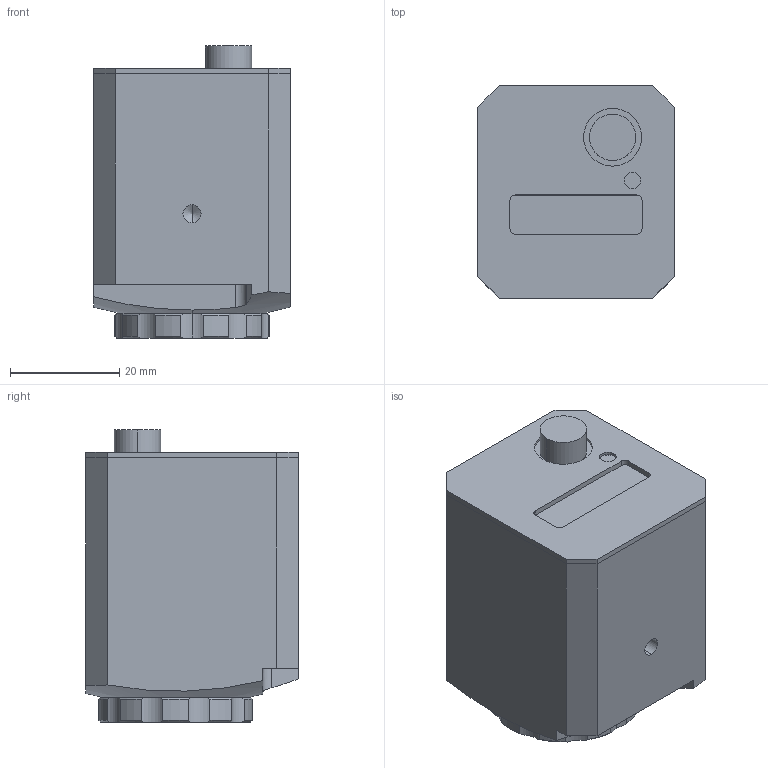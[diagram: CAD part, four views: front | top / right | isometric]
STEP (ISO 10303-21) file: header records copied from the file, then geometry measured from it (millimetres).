
FILE_DESCRIPTION (( 'STEP AP214' ), '1' );
FILE_NAME ('BeamPro C1.STEP', '2022-05-13T12:18:41', ( '' ), ( '' ), 'SwSTEP 2.0', 'SolidWorks 2020', '' );
FILE_SCHEMA (( 'AUTOMOTIVE_DESIGN' ));
Length unit declared in the file: millimetre
Products named in the file (5): Optique g幯廨ique_D20x2; BPRO-OPT-02_Documentation produit; BPRO-BOX-02_Documentation produit; BeamPro C1; BPRO-BOX-01_BPRO-BOX-01-C1 - documentation produit
Assembly tree (4 placements, depth 2):
  BeamPro C1
    BPRO-BOX-01_BPRO-BOX-01-C1 - documentation produit
    BPRO-BOX-02_Documentation produit
    BPRO-OPT-02_Documentation produit
    Optique g幯廨ique_D20x2
Bounding box: 36.1 x 39 x 53.55 mm (x, y, z)
Volume: 52416 mm3; surface area: 15578.7 mm2
Topology: 4 solids, 4 shells, 128 faces, 326 edges, 215 vertices
Faces by surface type: cylinder 59, plane 43, cone 24, sphere 2
Entity records: 4241 total; most frequent: CARTESIAN_POINT 815, DIRECTION 699, ORIENTED_EDGE 648, EDGE_CURVE 324, AXIS2_PLACEMENT_3D 285, VERTEX_POINT 215, CIRCLE 150, EDGE_LOOP 147
